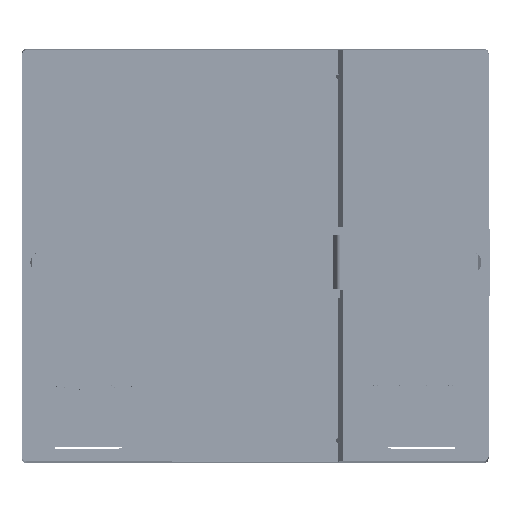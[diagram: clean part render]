
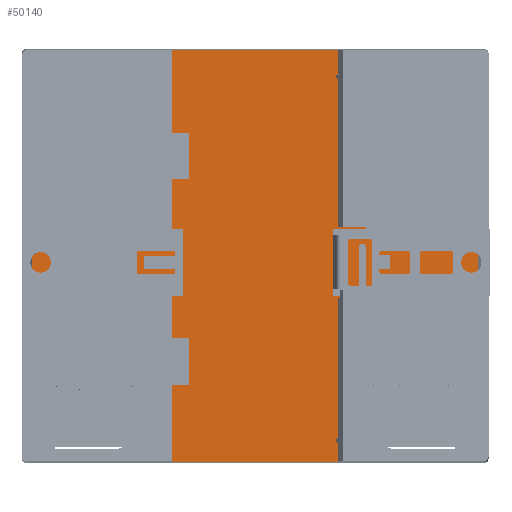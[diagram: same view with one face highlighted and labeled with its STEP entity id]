
A CAD part, top view. The second image highlights one B-rep face of the part: STEP entity #50140.
In plain terms, the highlighted planar face has unit normal (0, 0, 1).
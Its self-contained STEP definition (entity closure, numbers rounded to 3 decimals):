
#29901=CIRCLE('',#421964,0.5);
#29902=CIRCLE('',#421965,0.5);
#50140=ADVANCED_FACE('',(#83952),#63442,.F.);
#63442=PLANE('',#421966);
#83952=FACE_OUTER_BOUND('',#106657,.T.);
#106657=EDGE_LOOP('',(#203051,#203052,#203053,#203054,#203055,#203056,#203057,
#203058,#203059,#203060,#203061,#203062,#203063,#203064,#203065,#203066));
#203051=ORIENTED_EDGE('',*,*,#304577,.T.);
#203052=ORIENTED_EDGE('',*,*,#304567,.F.);
#203053=ORIENTED_EDGE('',*,*,#304565,.F.);
#203054=ORIENTED_EDGE('',*,*,#304579,.T.);
#203055=ORIENTED_EDGE('',*,*,#304561,.F.);
#203056=ORIENTED_EDGE('',*,*,#304559,.F.);
#203057=ORIENTED_EDGE('',*,*,#304580,.T.);
#203058=ORIENTED_EDGE('',*,*,#304581,.F.);
#203059=ORIENTED_EDGE('',*,*,#304582,.T.);
#203060=ORIENTED_EDGE('',*,*,#304583,.T.);
#203061=ORIENTED_EDGE('',*,*,#304584,.T.);
#203062=ORIENTED_EDGE('',*,*,#304411,.T.);
#203063=ORIENTED_EDGE('',*,*,#304431,.T.);
#203064=ORIENTED_EDGE('',*,*,#304585,.T.);
#203065=ORIENTED_EDGE('',*,*,#304427,.T.);
#203066=ORIENTED_EDGE('',*,*,#304586,.T.);
#251706=VERTEX_POINT('',#648697);
#251707=VERTEX_POINT('',#648698);
#251719=VERTEX_POINT('',#648726);
#251720=VERTEX_POINT('',#648728);
#251723=VERTEX_POINT('',#648734);
#251797=VERTEX_POINT('',#648982);
#251798=VERTEX_POINT('',#648984);
#251799=VERTEX_POINT('',#648988);
#251802=VERTEX_POINT('',#648994);
#251803=VERTEX_POINT('',#648996);
#251804=VERTEX_POINT('',#649000);
#251809=VERTEX_POINT('',#649020);
#251810=VERTEX_POINT('',#649025);
#251811=VERTEX_POINT('',#649027);
#251812=VERTEX_POINT('',#649029);
#251813=VERTEX_POINT('',#649031);
#304411=EDGE_CURVE('',#251706,#251707,#344900,.T.);
#304427=EDGE_CURVE('',#251720,#251719,#344916,.T.);
#304431=EDGE_CURVE('',#251707,#251723,#344918,.T.);
#304559=EDGE_CURVE('',#251797,#251798,#345028,.T.);
#304561=EDGE_CURVE('',#251798,#251799,#345030,.T.);
#304565=EDGE_CURVE('',#251802,#251803,#345032,.T.);
#304567=EDGE_CURVE('',#251803,#251804,#345034,.T.);
#304577=EDGE_CURVE('',#251809,#251804,#345044,.T.);
#304579=EDGE_CURVE('',#251802,#251799,#29901,.T.);
#304580=EDGE_CURVE('',#251797,#251810,#345046,.T.);
#304581=EDGE_CURVE('',#251811,#251810,#345047,.T.);
#304582=EDGE_CURVE('',#251811,#251812,#345048,.T.);
#304583=EDGE_CURVE('',#251812,#251813,#345049,.T.);
#304584=EDGE_CURVE('',#251813,#251706,#345050,.T.);
#304585=EDGE_CURVE('',#251723,#251720,#29902,.T.);
#304586=EDGE_CURVE('',#251719,#251809,#345051,.T.);
#344900=LINE('',#648696,#384628);
#344916=LINE('',#648727,#384644);
#344918=LINE('',#648735,#384646);
#345028=LINE('',#648983,#384756);
#345030=LINE('',#648987,#384758);
#345032=LINE('',#648995,#384760);
#345034=LINE('',#648999,#384762);
#345044=LINE('',#649019,#384772);
#345046=LINE('',#649024,#384774);
#345047=LINE('',#649026,#384775);
#345048=LINE('',#649028,#384776);
#345049=LINE('',#649030,#384777);
#345050=LINE('',#649032,#384778);
#345051=LINE('',#649034,#384779);
#384628=VECTOR('',#517779,1.);
#384644=VECTOR('',#517797,1.);
#384646=VECTOR('',#517803,1.);
#384756=VECTOR('',#518041,1.);
#384758=VECTOR('',#518045,1.);
#384760=VECTOR('',#518051,1.);
#384762=VECTOR('',#518055,1.);
#384772=VECTOR('',#518075,1.);
#384774=VECTOR('',#518081,1.);
#384775=VECTOR('',#518082,1.);
#384776=VECTOR('',#518083,1.);
#384777=VECTOR('',#518084,1.);
#384778=VECTOR('',#518085,1.);
#384779=VECTOR('',#518088,1.);
#421964=AXIS2_PLACEMENT_3D('',#649023,#518079,#518080);
#421965=AXIS2_PLACEMENT_3D('',#649033,#518086,#518087);
#421966=AXIS2_PLACEMENT_3D('',#649035,#518089,#518090);
#517779=DIRECTION('',(1.,0.,0.));
#517797=DIRECTION('',(0.,1.,0.));
#517803=DIRECTION('',(0.,1.,0.));
#518041=DIRECTION('',(1.,0.,0.));
#518045=DIRECTION('',(0.,-1.,0.));
#518051=DIRECTION('',(0.,-1.,0.));
#518055=DIRECTION('',(1.,0.,0.));
#518075=DIRECTION('',(0.,1.,0.));
#518079=DIRECTION('',(0.,0.,-1.));
#518080=DIRECTION('',(0.,-1.,0.));
#518081=DIRECTION('',(0.,-1.,0.));
#518082=DIRECTION('',(1.,0.,0.));
#518083=DIRECTION('',(0.,-1.,0.));
#518084=DIRECTION('',(1.,0.,0.));
#518085=DIRECTION('',(0.,-1.,0.));
#518086=DIRECTION('',(0.,0.,-1.));
#518087=DIRECTION('',(0.,-1.,0.));
#518088=DIRECTION('',(1.,0.,0.));
#518089=DIRECTION('',(0.,0.,-1.));
#518090=DIRECTION('',(1.,0.,0.));
#648696=CARTESIAN_POINT('',(-17.8,-43.48,-5.));
#648697=CARTESIAN_POINT('',(-17.8,-43.48,-5.));
#648698=CARTESIAN_POINT('',(17.8,-43.48,-5.));
#648726=CARTESIAN_POINT('',(17.8,-8.35,-5.));
#648727=CARTESIAN_POINT('',(17.8,-38.5,-5.));
#648728=CARTESIAN_POINT('',(17.8,-38.5,-5.));
#648734=CARTESIAN_POINT('',(17.8,-39.5,-5.));
#648735=CARTESIAN_POINT('',(17.8,-43.48,-5.));
#648982=CARTESIAN_POINT('',(-17.8,44.775,-5.));
#648983=CARTESIAN_POINT('',(-17.8,44.775,-5.));
#648984=CARTESIAN_POINT('',(17.8,44.775,-5.));
#648987=CARTESIAN_POINT('',(17.8,44.775,-5.));
#648988=CARTESIAN_POINT('',(17.8,39.5,-5.));
#648994=CARTESIAN_POINT('',(17.8,38.5,-5.));
#648995=CARTESIAN_POINT('',(17.8,38.5,-5.));
#648996=CARTESIAN_POINT('',(17.8,6.75,-5.));
#648999=CARTESIAN_POINT('',(17.8,6.75,-5.));
#649000=CARTESIAN_POINT('',(47.8,6.75,-5.));
#649019=CARTESIAN_POINT('',(47.8,42.4,-5.));
#649020=CARTESIAN_POINT('',(47.8,-8.35,-5.));
#649023=CARTESIAN_POINT('',(17.8,39.,-5.));
#649024=CARTESIAN_POINT('',(-17.8,44.775,-5.));
#649025=CARTESIAN_POINT('',(-17.8,6.75,-5.));
#649026=CARTESIAN_POINT('',(-47.8,6.75,-5.));
#649027=CARTESIAN_POINT('',(-47.8,6.75,-5.));
#649028=CARTESIAN_POINT('',(-47.8,6.75,-5.));
#649029=CARTESIAN_POINT('',(-47.8,-8.35,-5.));
#649030=CARTESIAN_POINT('',(-47.8,-8.35,-5.));
#649031=CARTESIAN_POINT('',(-17.8,-8.35,-5.));
#649032=CARTESIAN_POINT('',(-17.8,-28.,-5.));
#649033=CARTESIAN_POINT('',(17.8,-39.,-5.));
#649034=CARTESIAN_POINT('',(17.8,-8.35,-5.));
#649035=CARTESIAN_POINT('',(0.,42.4,-5.));
